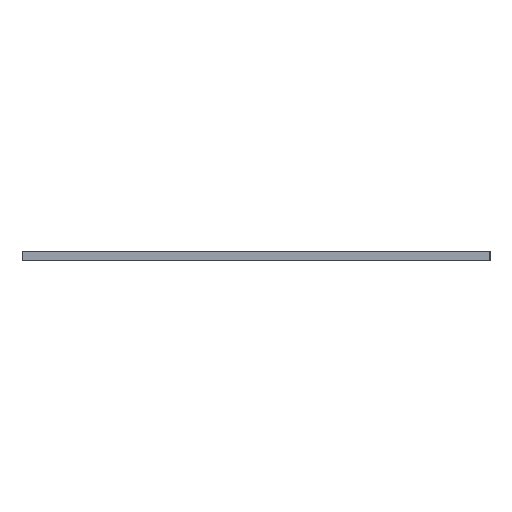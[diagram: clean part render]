
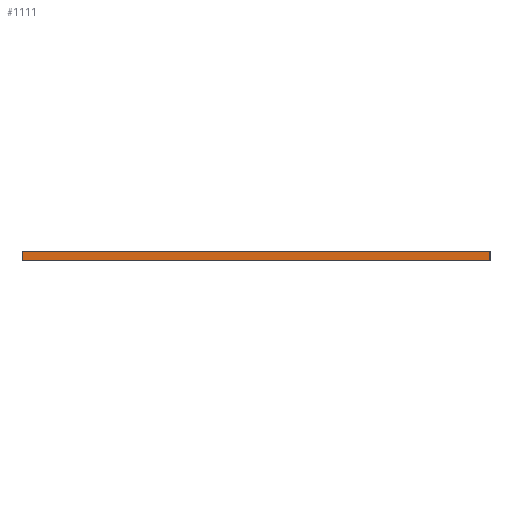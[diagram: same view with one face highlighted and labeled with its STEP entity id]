
A CAD part, left-side view. The second image highlights one B-rep face of the part: STEP entity #1111.
In plain terms, the highlighted planar face has unit normal (-1, 0, 0).
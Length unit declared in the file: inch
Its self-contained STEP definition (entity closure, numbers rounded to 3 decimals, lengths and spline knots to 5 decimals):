
#1=DIRECTION('',(0.,-1.,0.));
#2=VECTOR('',#1,3.);
#3=CARTESIAN_POINT('',(-5.5,1.5,0.));
#4=LINE('',#3,#2);
#221=DIRECTION('',(0.,0.,1.));
#222=VECTOR('',#221,0.06);
#223=CARTESIAN_POINT('',(-5.5,1.5,0.));
#224=LINE('',#223,#222);
#233=DIRECTION('',(0.,0.,1.));
#234=VECTOR('',#233,0.06);
#235=CARTESIAN_POINT('',(-5.5,-1.5,0.));
#236=LINE('',#235,#234);
#237=DIRECTION('',(0.,-1.,0.));
#238=VECTOR('',#237,3.);
#239=CARTESIAN_POINT('',(-5.5,1.5,0.06));
#240=LINE('',#239,#238);
#729=CARTESIAN_POINT('',(-5.5,1.5,0.));
#730=CARTESIAN_POINT('',(-5.5,-1.5,0.));
#731=VERTEX_POINT('',#729);
#732=VERTEX_POINT('',#730);
#737=CARTESIAN_POINT('',(-5.5,1.5,0.06));
#738=CARTESIAN_POINT('',(-5.5,-1.5,0.06));
#739=VERTEX_POINT('',#737);
#740=VERTEX_POINT('',#738);
#1097=CARTESIAN_POINT('',(-5.5,1.5,0.));
#1098=DIRECTION('',(-1.,0.,0.));
#1099=DIRECTION('',(0.,-1.,0.));
#1100=AXIS2_PLACEMENT_3D('',#1097,#1098,#1099);
#1101=PLANE('',#1100);
#1102=ORIENTED_EDGE('',*,*,#958,.F.);
#1104=ORIENTED_EDGE('',*,*,#1103,.T.);
#1106=ORIENTED_EDGE('',*,*,#1105,.T.);
#1108=ORIENTED_EDGE('',*,*,#1107,.F.);
#1109=EDGE_LOOP('',(#1102,#1104,#1106,#1108));
#1110=FACE_OUTER_BOUND('',#1109,.F.);
#1111=ADVANCED_FACE('',(#1110),#1101,.T.);
#958=EDGE_CURVE('',#731,#732,#4,.T.);
#1103=EDGE_CURVE('',#731,#739,#224,.T.);
#1105=EDGE_CURVE('',#739,#740,#240,.T.);
#1107=EDGE_CURVE('',#732,#740,#236,.T.);
